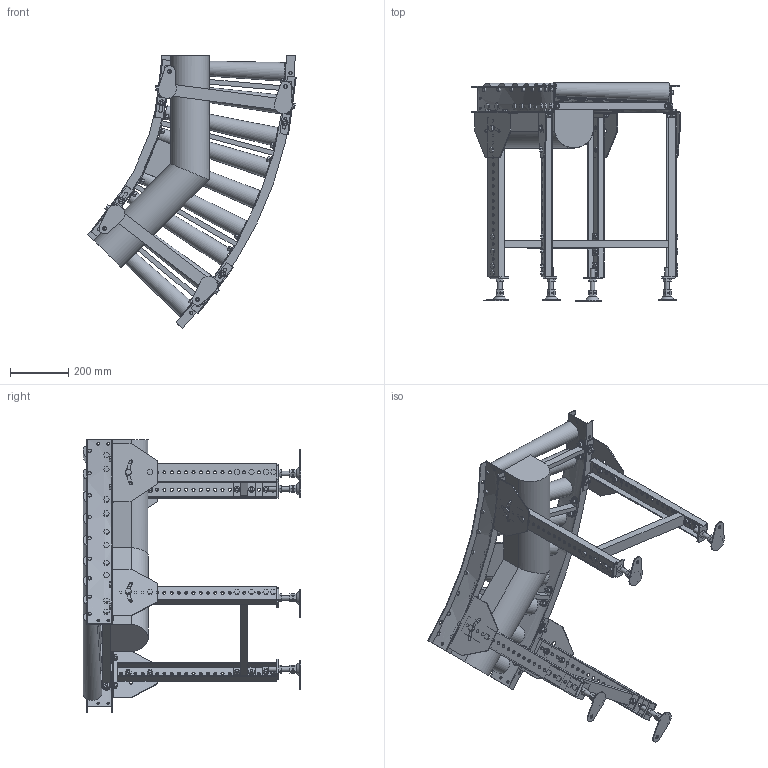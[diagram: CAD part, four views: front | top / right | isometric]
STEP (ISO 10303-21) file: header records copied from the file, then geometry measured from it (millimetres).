
FILE_DESCRIPTION( (''), '2;1');
FILE_NAME ('WEB-MCD-50-400-100-45°-C9.stp','2026-02-20T12:11:56',(''),(''),'spGate 20.6.2 (****-****-****-****)','','');
FILE_SCHEMA (('AUTOMOTIVE_DESIGN'));
Length unit declared in the file: millimetre
Products named in the file (31): WEB-MCD-50-400-100-45_-C9; TEMP_X_T-prt0; TEMP_X_T-prt1; TEMP_X_T-prt2; TEMP_X_T-prt3; TEMP_X_T-prt4; TEMP_X_T-prt5; TEMP_X_T-prt6; TEMP_X_T-prt7; TEMP_X_T-prt8; TEMP_X_T-prt9; TEMP_X_T-prt10; TEMP_X_T-prt11; TEMP_X_T-prt12; TEMP_X_T-prt13; TEMP_X_T-prt14; TEMP_X_T-prt15; TEMP_X_T-prt16; TEMP_X_T-prt17; TEMP_X_T-prt18; TEMP_X_T-prt19; TEMP_X_T-prt20; TEMP_X_T-prt21; TEMP_X_T-prt22; TEMP_X_T-prt23; TEMP_X_T-prt24; TEMP_X_T-prt25; TEMP_X_T-prt26; TEMP_X_T-prt27; TEMP_X_T-prt28; TEMP_X_T-prt29
Assembly tree (30 placements, depth 2):
  WEB-MCD-50-400-100-45_-C9
    TEMP_X_T-prt0
    TEMP_X_T-prt1
    TEMP_X_T-prt2
    TEMP_X_T-prt3
    TEMP_X_T-prt4
    TEMP_X_T-prt5
    TEMP_X_T-prt6
    TEMP_X_T-prt7
    TEMP_X_T-prt8
    TEMP_X_T-prt9
    TEMP_X_T-prt10
    TEMP_X_T-prt11
    TEMP_X_T-prt12
    TEMP_X_T-prt13
    TEMP_X_T-prt14
    TEMP_X_T-prt15
    TEMP_X_T-prt16
    TEMP_X_T-prt17
    TEMP_X_T-prt18
    TEMP_X_T-prt19
    TEMP_X_T-prt20
    TEMP_X_T-prt21
    TEMP_X_T-prt22
    TEMP_X_T-prt23
    TEMP_X_T-prt24
    TEMP_X_T-prt25
    TEMP_X_T-prt26
    TEMP_X_T-prt27
    TEMP_X_T-prt28
    TEMP_X_T-prt29
Bounding box: 717.85 x 750.24 x 940.45 mm (x, y, z)
Volume: 25195856.4 mm3; surface area: 2750089 mm2
Topology: 30 solids, 50 shells, 2199 faces, 5306 edges, 3413 vertices
Faces by surface type: plane 1838, cylinder 348, bspline 13
Full cylindrical faces by diameter (mm): 8.5 x8, 10 x60, 10.5 x92, 11 x2, 12 x18, 13 x4, 14 x6, 16 x4, 18.4 x42, 18.5 x8, 21 x30
Entity records: 110885 total; most frequent: CARTESIAN_POINT 13908, DIRECTION 11027, ORIENTED_EDGE 10612, COLOUR_RGB 7535, PRESENTATION_STYLE_ASSIGNMENT 7535, STYLED_ITEM 7535, EDGE_CURVE 5306, DRAUGHTING_PRE_DEFINED_CURVE_FONT 5306
